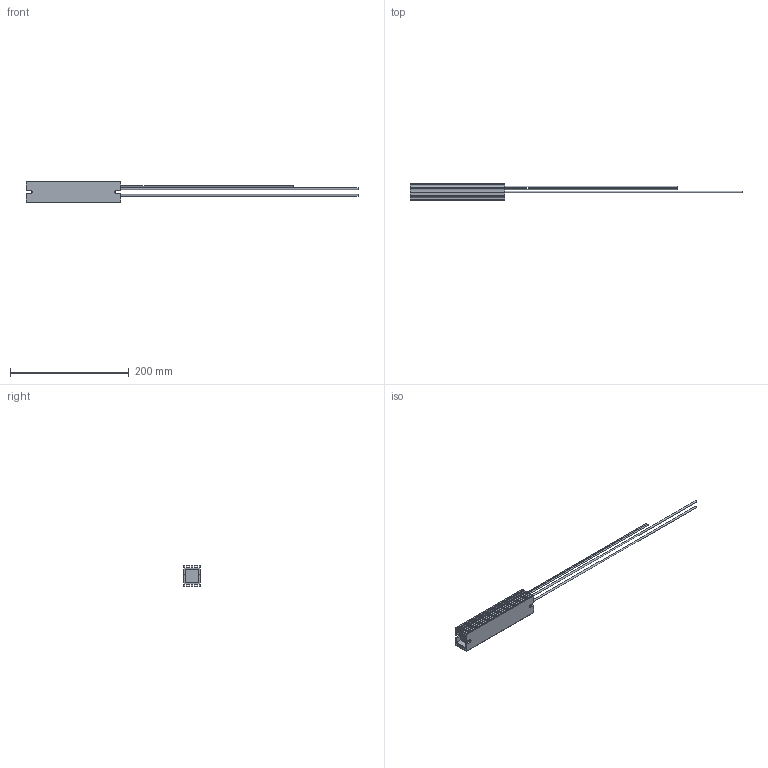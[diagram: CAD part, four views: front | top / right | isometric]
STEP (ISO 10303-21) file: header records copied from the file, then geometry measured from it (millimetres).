
FILE_DESCRIPTION(/* description */ (''),/* implementation_level */ '2;1');
FILE_NAME(/* name */ 'C:\_Vault\Dati\CATALOGO\RFZC\3D\RFZTC160.stp',/* time_stamp */ '2014-03-27T17:45:27+01:00',/* author */ ('stefano'),/* organization */ (''),/* preprocessor_version */ 'ST-DEVELOPER v15.2',/* originating_system */ 'Autodesk Inventor 2014',/* authorisation */ '');
FILE_SCHEMA (('AUTOMOTIVE_DESIGN { 1 0 10303 214 3 1 1 }'));
Length unit declared in the file: millimetre
Products named in the file (1): RFZTC160
Bounding box: 560 x 27 x 36 mm (x, y, z)
Volume: 133712 mm3; surface area: 47829.6 mm2
Topology: 1 solids, 1 shells, 98 faces, 268 edges, 176 vertices
Faces by surface type: plane 72, cylinder 26
Full cylindrical faces by diameter (mm): 2 x2, 3 x2
Entity records: 3215 total; most frequent: CARTESIAN_POINT 539, ORIENTED_EDGE 528, DIRECTION 522, EDGE_CURVE 264, LINE 204, VECTOR 204, VERTEX_POINT 176, AXIS2_PLACEMENT_3D 159
